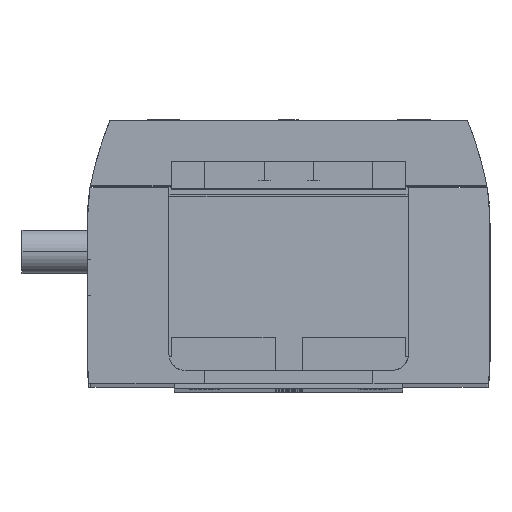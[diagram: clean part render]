
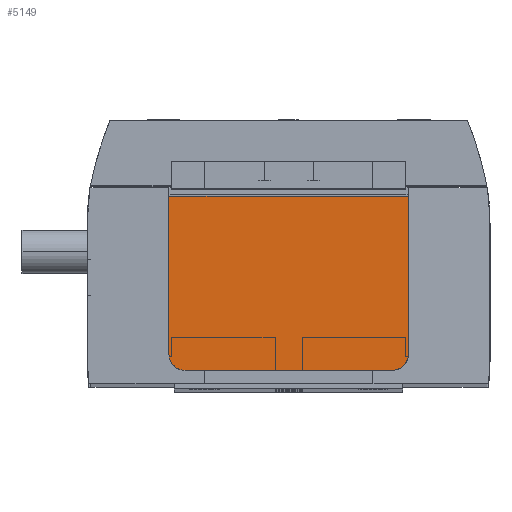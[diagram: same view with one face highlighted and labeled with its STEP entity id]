
A CAD part, top view. The second image highlights one B-rep face of the part: STEP entity #5149.
In plain terms, the highlighted planar face has unit normal (0, 0, 1).
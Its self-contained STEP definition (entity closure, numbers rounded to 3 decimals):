
#1034 = LINE ( 'NONE', #18611, #24692 ) ;
#1341 = ORIENTED_EDGE ( 'NONE', *, *, #4102, .T. ) ;
#1627 = VECTOR ( 'NONE', #22646, 1000. ) ;
#2149 = CARTESIAN_POINT ( 'NONE',  ( -22., -19.6, 368.7 ) ) ;
#3035 = DIRECTION ( 'NONE',  ( 1., 0., 0. ) ) ;
#3100 = DIRECTION ( 'NONE',  ( 1., 0., 0. ) ) ;
#3391 = FACE_OUTER_BOUND ( 'NONE', #26310, .T. ) ;
#4102 = EDGE_CURVE ( 'NONE', #14767, #18495, #1034, .T. ) ;
#4289 = CIRCLE ( 'NONE', #22738, 3. ) ;
#4441 = DIRECTION ( 'NONE',  ( 0., 0., 1. ) ) ;
#5149 = ADVANCED_FACE ( 'NONE', ( #3391 ), #11383, .T. ) ;
#6321 = EDGE_CURVE ( 'NONE', #15941, #14767, #15508, .T. ) ;
#8347 = DIRECTION ( 'NONE',  ( 0., -1., 0. ) ) ;
#8777 = DIRECTION ( 'NONE',  ( 1., 0., 0. ) ) ;
#8801 = VECTOR ( 'NONE', #8347, 1000. ) ;
#9264 = VERTEX_POINT ( 'NONE', #10418 ) ;
#10418 = CARTESIAN_POINT ( 'NONE',  ( -22., 9.4, 368.7 ) ) ;
#11383 = PLANE ( 'NONE',  #25718 ) ;
#11859 = EDGE_CURVE ( 'NONE', #9264, #28053, #25290, .T. ) ;
#12103 = CARTESIAN_POINT ( 'NONE',  ( 22., 9.4, 368.7 ) ) ;
#12228 = LINE ( 'NONE', #25832, #17458 ) ;
#12641 = ORIENTED_EDGE ( 'NONE', *, *, #11859, .F. ) ;
#13082 = CARTESIAN_POINT ( 'NONE',  ( 22., -19.6, 368.7 ) ) ;
#13139 = CARTESIAN_POINT ( 'NONE',  ( 19., -19.6, 368.7 ) ) ;
#13597 = CARTESIAN_POINT ( 'NONE',  ( 22., 9.4, 368.7 ) ) ;
#14205 = EDGE_CURVE ( 'NONE', #18495, #19483, #4289, .T. ) ;
#14711 = LINE ( 'NONE', #23781, #8801 ) ;
#14767 = VERTEX_POINT ( 'NONE', #15557 ) ;
#15386 = DIRECTION ( 'NONE',  ( 1., 0., 0. ) ) ;
#15508 = CIRCLE ( 'NONE', #19976, 3. ) ;
#15557 = CARTESIAN_POINT ( 'NONE',  ( -19., -22.6, 368.7 ) ) ;
#15941 = VERTEX_POINT ( 'NONE', #2149 ) ;
#17458 = VECTOR ( 'NONE', #28234, 1000. ) ;
#18495 = VERTEX_POINT ( 'NONE', #22526 ) ;
#18611 = CARTESIAN_POINT ( 'NONE',  ( -22., -22.6, 368.7 ) ) ;
#19034 = ORIENTED_EDGE ( 'NONE', *, *, #26849, .T. ) ;
#19483 = VERTEX_POINT ( 'NONE', #13082 ) ;
#19976 = AXIS2_PLACEMENT_3D ( 'NONE', #25278, #20736, #3100 ) ;
#20423 = ORIENTED_EDGE ( 'NONE', *, *, #6321, .T. ) ;
#20736 = DIRECTION ( 'NONE',  ( 0., 0., 1. ) ) ;
#22526 = CARTESIAN_POINT ( 'NONE',  ( 19., -22.6, 368.7 ) ) ;
#22646 = DIRECTION ( 'NONE',  ( 1., 0., 0. ) ) ;
#22715 = ORIENTED_EDGE ( 'NONE', *, *, #14205, .T. ) ;
#22738 = AXIS2_PLACEMENT_3D ( 'NONE', #13139, #28649, #15386 ) ;
#23223 = CARTESIAN_POINT ( 'NONE',  ( -22., -22.6, 368.7 ) ) ;
#23781 = CARTESIAN_POINT ( 'NONE',  ( -22., 11., 368.7 ) ) ;
#24692 = VECTOR ( 'NONE', #3035, 1000. ) ;
#25278 = CARTESIAN_POINT ( 'NONE',  ( -19., -19.6, 368.7 ) ) ;
#25290 = LINE ( 'NONE', #13597, #1627 ) ;
#25718 = AXIS2_PLACEMENT_3D ( 'NONE', #23223, #4441, #8777 ) ;
#25832 = CARTESIAN_POINT ( 'NONE',  ( 22., 11., 368.7 ) ) ;
#26310 = EDGE_LOOP ( 'NONE', ( #1341, #22715, #26603, #12641, #19034, #20423 ) ) ;
#26603 = ORIENTED_EDGE ( 'NONE', *, *, #27640, .T. ) ;
#26849 = EDGE_CURVE ( 'NONE', #9264, #15941, #14711, .T. ) ;
#27640 = EDGE_CURVE ( 'NONE', #19483, #28053, #12228, .T. ) ;
#28053 = VERTEX_POINT ( 'NONE', #12103 ) ;
#28234 = DIRECTION ( 'NONE',  ( 0., 1., 0. ) ) ;
#28649 = DIRECTION ( 'NONE',  ( 0., 0., 1. ) ) ;
